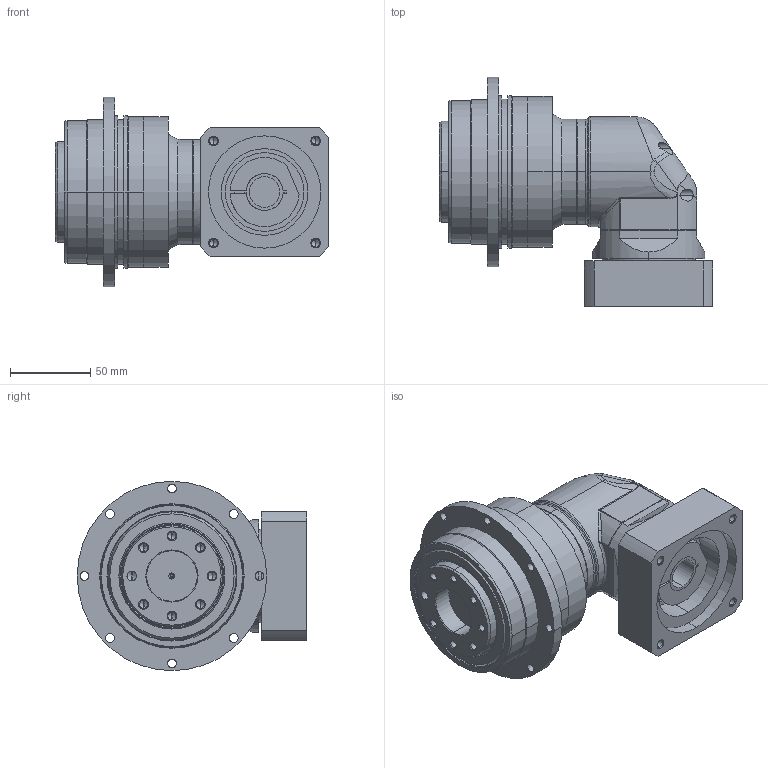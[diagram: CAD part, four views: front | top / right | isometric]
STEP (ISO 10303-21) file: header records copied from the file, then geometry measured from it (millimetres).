
FILE_DESCRIPTION (( 'STEP AP203' ), '1' );
FILE_NAME ('ADR090-L2-19-70-90-M6.STEP', '2024-05-04T08:03:12', ( '' ), ( '' ), 'SwSTEP 2.0', 'SolidWorks 2015', '' );
FILE_SCHEMA (( 'CONFIG_CONTROL_DESIGN' ));
Length unit declared in the file: millimetre
Products named in the file (1): ADR090-L2-19-70-90-M6
Bounding box: 170.5 x 143 x 118 mm (x, y, z)
Volume: 850329.1 mm3; surface area: 170094.1 mm2
Topology: 9 solids, 9 shells, 496 faces, 1165 edges, 689 vertices
Faces by surface type: cylinder 186, cone 127, bspline 89, plane 86, torus 8
Entity records: 18451 total; most frequent: CARTESIAN_POINT 7647, ORIENTED_EDGE 2242, DIRECTION 2204, EDGE_CURVE 1121, AXIS2_PLACEMENT_3D 916, VERTEX_POINT 689, EDGE_LOOP 578, CIRCLE 508
